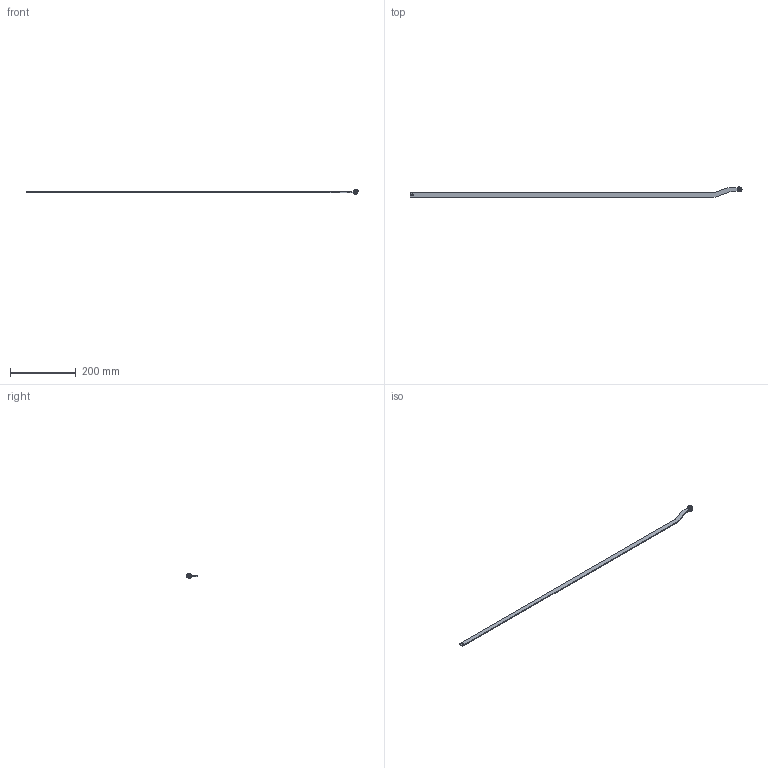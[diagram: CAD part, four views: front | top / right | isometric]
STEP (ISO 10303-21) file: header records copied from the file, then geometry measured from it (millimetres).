
FILE_DESCRIPTION (( 'STEP AP214' ), '1' );
FILE_NAME ('A20-L.STEP', '2016-08-18T08:30:17', ( 'RST-Dolba' ), ( '' ), 'SwSTEP 2.0', 'SolidWorks 2015', '' );
FILE_SCHEMA (( 'AUTOMOTIVE_DESIGN' ));
Length unit declared in the file: millimetre
Products named in the file (5): DIN 125_M4; 1C.ROLKA.02.04.00_A-zak; 1C.905.001_A; 1C.A.X.Y.L.01_20; A20-L
Assembly tree (5 placements, depth 2):
  A20-L
    1C.A.X.Y.L.01_20
    1C.905.001_A  x2
    1C.ROLKA.02.04.00_A-zak
    DIN 125_M4
Bounding box: 1007.5 x 31 x 14 mm (x, y, z)
Volume: 43572.5 mm3; surface area: 35777.5 mm2
Topology: 5 solids, 5 shells, 56 faces, 129 edges, 83 vertices
Faces by surface type: cylinder 28, plane 22, torus 4, cone 2
Entity records: 1605 total; most frequent: DIRECTION 275, CARTESIAN_POINT 240, ORIENTED_EDGE 222, EDGE_CURVE 111, AXIS2_PLACEMENT_3D 108, VERTEX_POINT 73, LINE 59, VECTOR 59
